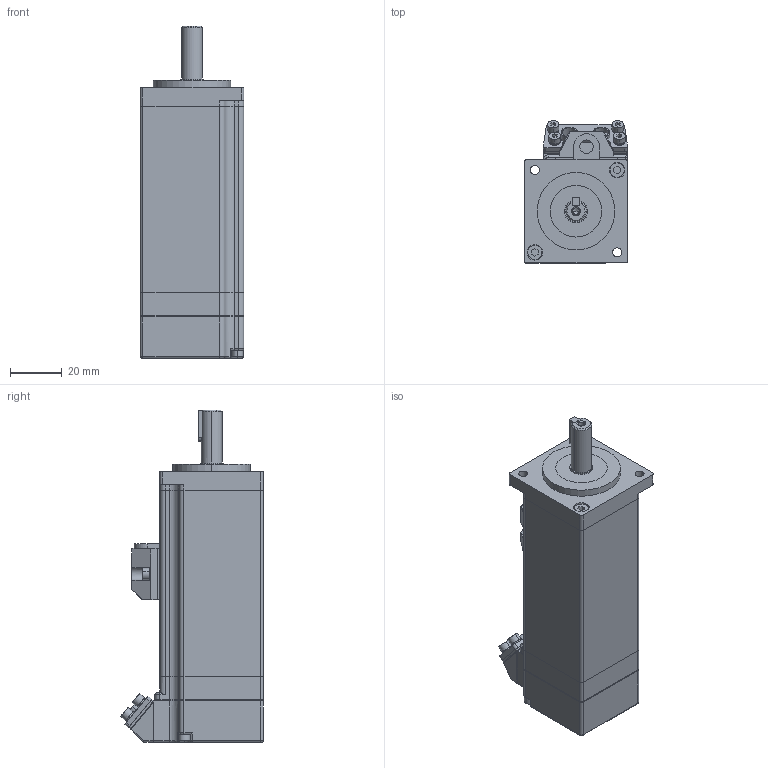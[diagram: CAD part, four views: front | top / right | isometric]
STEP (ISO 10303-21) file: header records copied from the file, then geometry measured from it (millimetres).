
FILE_DESCRIPTION (( 'STEP AP203' ), '1' );
FILE_NAME ('SMC40S-0005-30MBK-5DSU.STEP', '2020-08-10T08:37:39', ( '' ), ( '' ), 'SwSTEP 2.0', 'SolidWorks 2016', '' );
FILE_SCHEMA (( 'CONFIG_CONTROL_DESIGN' ));
Length unit declared in the file: millimetre
Products named in the file (22): 10110050003躇猾菜B-V1.0; 10105050031普通C型平键GBT1096-C3X3X12; 10109020258儂褲禱矗-V1.2; 10109090001萇埭竘盄碟; 10109010024前端盖-V1.0; 10109090003晤鎢ん竘盄碟-V1.0; 10105010003内六角圆柱头螺钉M2.5X4; 10110060016编码器引线盒密封圈-V1.0; SMC40S-0005-30MBK-5DSU; 10109030045綴傷裔-V1.1; 10105010051内六角圆柱头螺钉M2.5X20; 10105030048諉華え; 10109070053鎢攫欶-V1.0; 207040855蛌赽-V1.0; 10105030018 GBT93 标准弹簧垫圈 2.5; 207010822隅赽軞傖-V1.0; 10105070020嘎殤蚐猾VC9X20X3; 10108030858蛌粣-V1.1; 10110060001萇埭竘盄菜; 10109020257儂褲-V1.4; 10105010001内六角圆柱头螺钉M2.5X6; 10105010027内六角圆柱头螺钉M3X12
Assembly tree (36 placements, depth 4):
  SMC40S-0005-30MBK-5DSU
    10109010024前端盖-V1.0
    207010822隅赽軞傖-V1.0
      10109020257儂褲-V1.4
        10109020258儂褲禱矗-V1.2
      10110060001萇埭竘盄菜
      10105030048諉華え
      10109090001萇埭竘盄碟
      10105010001内六角圆柱头螺钉M2.5X6  x2
      10105010003内六角圆柱头螺钉M2.5X4
      10105030018 GBT93 标准弹簧垫圈 2.5  x3
    10109030045綴傷裔-V1.1
    207040855蛌赽-V1.0
      10108030858蛌粣-V1.1
    10105070020嘎殤蚐猾VC9X20X3
    10110050003躇猾菜B-V1.0
    10109070053鎢攫欶-V1.0
    10110060016编码器引线盒密封圈-V1.0
    10109090003晤鎢ん竘盄碟-V1.0
    10105030018 GBT93 标准弹簧垫圈 2.5  x4
    10105010001内六角圆柱头螺钉M2.5X6  x4
    10105010027内六角圆柱头螺钉M3X12  x4
    10105010051内六角圆柱头螺钉M2.5X20  x2
    10105050031普通C型平键GBT1096-C3X3X12
Bounding box: 40 x 55.21 x 128.4 mm (x, y, z)
Volume: 75189.8 mm3; surface area: 55414.1 mm2
Topology: 33 solids, 33 shells, 913 faces, 2262 edges, 1461 vertices
Faces by surface type: cylinder 450, plane 387, cone 51, sphere 13, torus 10, bspline 2
Entity records: 24844 total; most frequent: CARTESIAN_POINT 4102, DIRECTION 4036, ORIENTED_EDGE 3596, EDGE_CURVE 1798, AXIS2_PLACEMENT_3D 1551, VERTEX_POINT 1165, LINE 934, VECTOR 934
